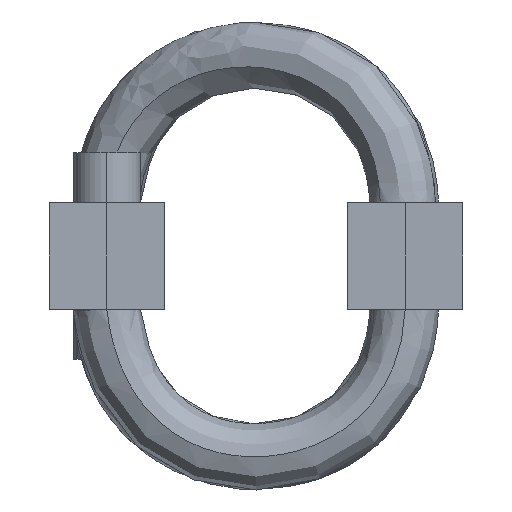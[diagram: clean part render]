
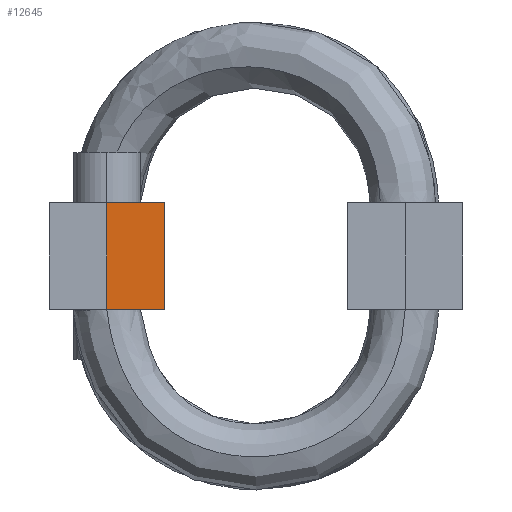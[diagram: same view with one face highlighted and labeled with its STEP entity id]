
A CAD part, left-side view. The second image highlights one B-rep face of the part: STEP entity #12645.
In plain terms, the highlighted planar face has unit normal (-1, 0, 0).
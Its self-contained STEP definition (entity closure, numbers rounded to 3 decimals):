
#1009 = CARTESIAN_POINT ( 'NONE',  ( -133.35, 21.9, 12.7 ) ) ;
#1064 = EDGE_LOOP ( 'NONE', ( #16058, #19096, #33730, #37217 ) ) ;
#1067 = CARTESIAN_POINT ( 'NONE',  ( -133.35, 35.7, -12.7 ) ) ;
#2012 = FACE_OUTER_BOUND ( 'NONE', #1064, .T. ) ;
#3721 = VECTOR ( 'NONE', #34764, 1000. ) ;
#4071 = DIRECTION ( 'NONE',  ( -1., 0., 0. ) ) ;
#4901 = CARTESIAN_POINT ( 'NONE',  ( -133.35, 35.7, 12.7 ) ) ;
#8585 = DIRECTION ( 'NONE',  ( 0., -1., 0. ) ) ;
#11096 = EDGE_CURVE ( 'NONE', #26661, #13252, #20038, .T. ) ;
#11840 = CARTESIAN_POINT ( 'NONE',  ( -133.35, 21.9, -12.7 ) ) ;
#12645 = ADVANCED_FACE ( 'NONE', ( #2012 ), #21295, .T. ) ;
#13252 = VERTEX_POINT ( 'NONE', #1009 ) ;
#13505 = VERTEX_POINT ( 'NONE', #4901 ) ;
#13770 = EDGE_CURVE ( 'NONE', #13252, #13505, #18110, .T. ) ;
#14349 = CARTESIAN_POINT ( 'NONE',  ( -133.35, 21.9, -12.7 ) ) ;
#14659 = CARTESIAN_POINT ( 'NONE',  ( -133.35, 21.9, 12.7 ) ) ;
#15488 = CARTESIAN_POINT ( 'NONE',  ( -133.35, 28.8, 0. ) ) ;
#16058 = ORIENTED_EDGE ( 'NONE', *, *, #13770, .T. ) ;
#18110 = LINE ( 'NONE', #14659, #3721 ) ;
#18185 = CARTESIAN_POINT ( 'NONE',  ( -133.35, 35.7, -12.7 ) ) ;
#18463 = AXIS2_PLACEMENT_3D ( 'NONE', #15488, #4071, #24180 ) ;
#19096 = ORIENTED_EDGE ( 'NONE', *, *, #23309, .T. ) ;
#20038 = LINE ( 'NONE', #11840, #26775 ) ;
#20654 = VERTEX_POINT ( 'NONE', #1067 ) ;
#21295 = PLANE ( 'NONE',  #18463 ) ;
#21681 = VECTOR ( 'NONE', #8585, 1000. ) ;
#22838 = VECTOR ( 'NONE', #26841, 1000. ) ;
#23309 = EDGE_CURVE ( 'NONE', #13505, #20654, #30483, .T. ) ;
#24180 = DIRECTION ( 'NONE',  ( 0., 0., 1. ) ) ;
#24601 = CARTESIAN_POINT ( 'NONE',  ( -133.35, 21.9, -12.7 ) ) ;
#26661 = VERTEX_POINT ( 'NONE', #24601 ) ;
#26775 = VECTOR ( 'NONE', #34817, 1000. ) ;
#26841 = DIRECTION ( 'NONE',  ( 0., 0., -1. ) ) ;
#29320 = LINE ( 'NONE', #14349, #21681 ) ;
#29870 = EDGE_CURVE ( 'NONE', #20654, #26661, #29320, .T. ) ;
#30483 = LINE ( 'NONE', #18185, #22838 ) ;
#33730 = ORIENTED_EDGE ( 'NONE', *, *, #29870, .T. ) ;
#34764 = DIRECTION ( 'NONE',  ( 0., 1., 0. ) ) ;
#34817 = DIRECTION ( 'NONE',  ( 0., 0., 1. ) ) ;
#37217 = ORIENTED_EDGE ( 'NONE', *, *, #11096, .T. ) ;
